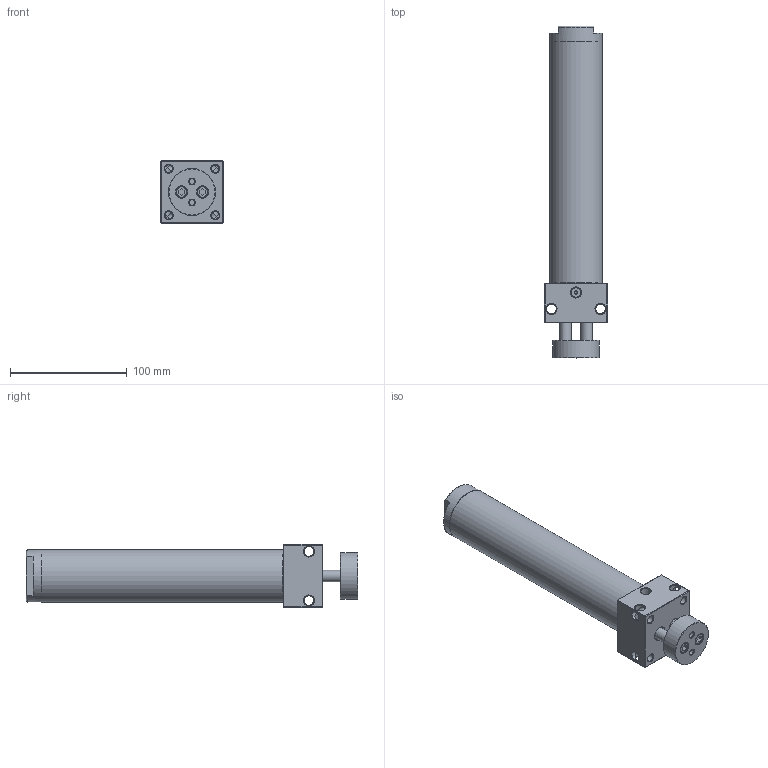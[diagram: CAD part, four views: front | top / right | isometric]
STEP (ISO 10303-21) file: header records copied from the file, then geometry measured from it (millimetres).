
FILE_DESCRIPTION((''),'2;1');
FILE_NAME('I:\3D電子目錄\氣缸\DBT\DBT\DBT40\DBT40x150.stp','2007-10-08T09:01:14',('Administrator'),(''),'Autodesk Inventor 2008','Autodesk Inventor 2008','');
FILE_SCHEMA(('AUTOMOTIVE_DESIGN { 1 0 10303 214 1 1 1 1 }'));
Length unit declared in the file: millimetre
Products named in the file (1): DBT40x150
Bounding box: 54 x 284 x 54 mm (x, y, z)
Volume: 213216.1 mm3; surface area: 94557.5 mm2
Topology: 5 solids, 5 shells, 164 faces, 360 edges, 215 vertices
Faces by surface type: plane 57, bspline 47, cone 37, cylinder 23
Full cylindrical faces by diameter (mm): 3 x1, 4.3 x1, 6 x1, 9.5 x1, 10 x4, 12 x1, 13 x1, 22 x1, 38.8 x2, 40 x2, 40.8 x2, 42 x2, 42.2 x2, 45 x2
Entity records: 4662 total; most frequent: CARTESIAN_POINT 1568, DIRECTION 604, ORIENTED_EDGE 500, EDGE_LOOP 300, AXIS2_PLACEMENT_3D 256, EDGE_CURVE 250, VERTEX_POINT 196, FACE_OUTER_BOUND 164
